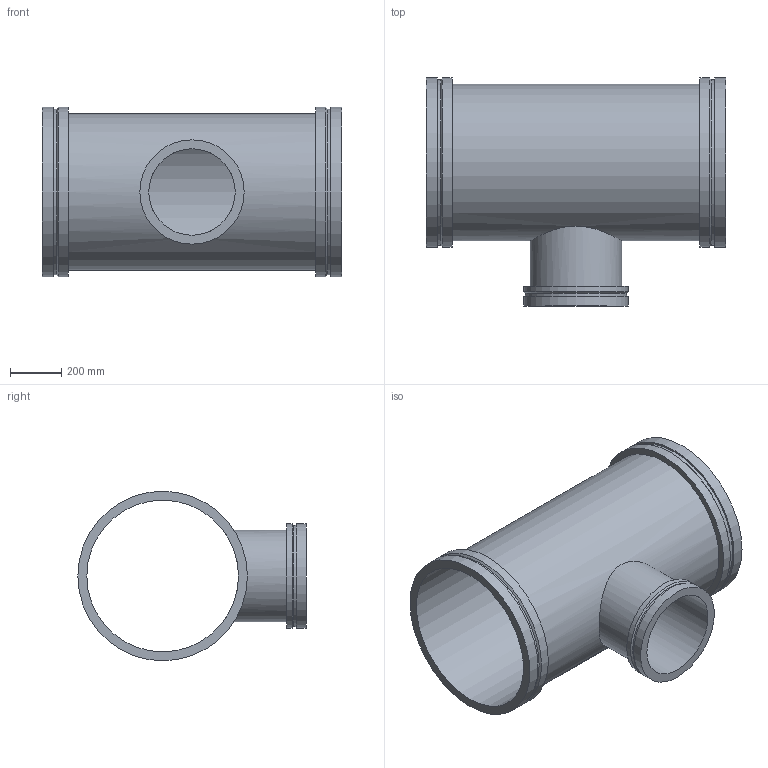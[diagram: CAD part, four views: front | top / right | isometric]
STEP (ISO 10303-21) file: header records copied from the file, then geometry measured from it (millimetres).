
FILE_DESCRIPTION(/* description */ ('VIC REDUCING TEE No W025 VR','CAx-IF Rec.Pracs.---Representation and Presentation of Product Manufacturing Information (PMI)---4.0---2014-10-13'),/* implementation_level */ '2;1');
FILE_NAME(/* name */ 'C:\Users\kkamble\AppData\Roaming\Autodesk\ApplicationPlugins\Back Up\Victaulic_Vic-Ring_Tee Reducing_No W25 VR (AGR)\Victaulic_Vic-Ring_Tee Reducing_No W25 VR (AGR)_24.0x14.0 (600x350).stp',/* time_stamp */ '2020-09-10T11:53:03+05:00',/* author */ ('mchristi'),/* organization */ ('Victaulic'),/* preprocessor_version */ 'ST-DEVELOPER v17.2',/* originating_system */ 'Autodesk Inventor 2019',/* authorisation */ '');
FILE_SCHEMA (('AP242_MANAGED_MODEL_BASED_3D_ENGINEERING_MIM_LF { 1 0 10303 442 1 1 4 }'));
Length unit declared in the file: inch
Products named in the file (1): W25 VR-24.0x14.0
Bounding box: 1168.4 x 889 x 660.4 mm (x, y, z)
Volume: 35006827.2 mm3; surface area: 5236231 mm2
Topology: 1 solids, 1 shells, 25 faces, 68 edges, 52 vertices
Faces by surface type: cylinder 13, plane 9, cone 3
Full cylindrical faces by diameter (mm): 336.55 x1, 355.6 x1, 393.7 x1, 406.4 x2, 590.55 x1, 609.6 x1, 645.922 x2, 660.4 x4
Entity records: 1171 total; most frequent: CARTESIAN_POINT 327, DIRECTION 190, ORIENTED_EDGE 136, AXIS2_PLACEMENT_3D 87, EDGE_CURVE 68, VERTEX_POINT 52, CIRCLE 48, EDGE_LOOP 36
